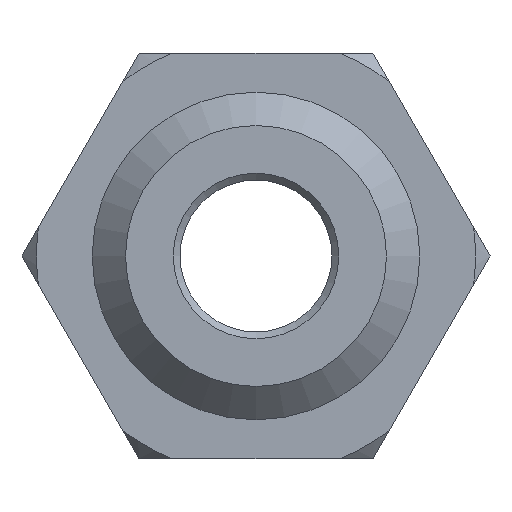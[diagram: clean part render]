
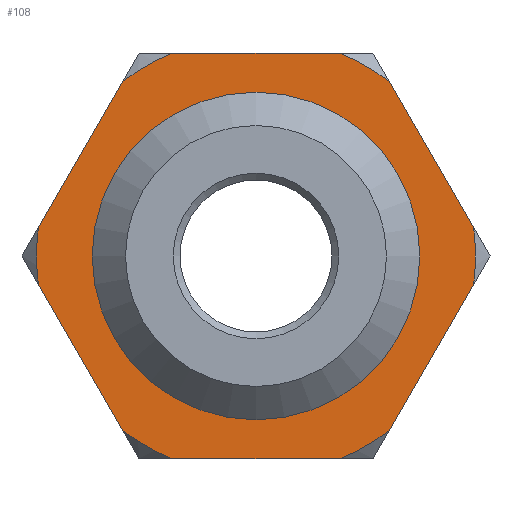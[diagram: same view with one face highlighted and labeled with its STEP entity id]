
A CAD part, left-side view. The second image highlights one B-rep face of the part: STEP entity #108.
In plain terms, the highlighted planar face has unit normal (-1, 0, 0).
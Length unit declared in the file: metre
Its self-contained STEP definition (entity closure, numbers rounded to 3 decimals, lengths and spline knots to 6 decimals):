
#108=ADVANCED_FACE('',(#231,#232),#233,.T.);
#231=FACE_OUTER_BOUND('',#364,.T.);
#232=FACE_BOUND('',#365,.T.);
#233=PLANE('',#366);
#364=EDGE_LOOP('',(#597,#598,#599,#600,#601,#602,#603,#604,#605,#606,#607,#608));
#365=EDGE_LOOP('',(#609));
#366=AXIS2_PLACEMENT_3D('',#610,#611,#612);
#597=ORIENTED_EDGE('',*,*,#782,.F.);
#598=ORIENTED_EDGE('',*,*,#701,.T.);
#599=ORIENTED_EDGE('',*,*,#707,.F.);
#600=ORIENTED_EDGE('',*,*,#712,.T.);
#601=ORIENTED_EDGE('',*,*,#718,.F.);
#602=ORIENTED_EDGE('',*,*,#722,.T.);
#603=ORIENTED_EDGE('',*,*,#750,.F.);
#604=ORIENTED_EDGE('',*,*,#743,.T.);
#605=ORIENTED_EDGE('',*,*,#783,.F.);
#606=ORIENTED_EDGE('',*,*,#733,.T.);
#607=ORIENTED_EDGE('',*,*,#776,.F.);
#608=ORIENTED_EDGE('',*,*,#779,.T.);
#609=ORIENTED_EDGE('',*,*,#766,.F.);
#610=CARTESIAN_POINT('',(-0.0064,0.,0.012));
#611=DIRECTION('',(-1.0,0.,0.0));
#612=DIRECTION('',(0.0,0.0,1.0));
#701=EDGE_CURVE('',#814,#812,#815,.T.);
#707=EDGE_CURVE('',#823,#812,#824,.T.);
#712=EDGE_CURVE('',#823,#830,#832,.T.);
#718=EDGE_CURVE('',#839,#830,#841,.T.);
#722=EDGE_CURVE('',#839,#846,#848,.T.);
#733=EDGE_CURVE('',#866,#864,#867,.T.);
#743=EDGE_CURVE('',#882,#880,#883,.T.);
#750=EDGE_CURVE('',#882,#846,#891,.T.);
#766=EDGE_CURVE('',#915,#915,#916,.T.);
#776=EDGE_CURVE('',#929,#864,#931,.T.);
#779=EDGE_CURVE('',#929,#933,#935,.T.);
#782=EDGE_CURVE('',#814,#933,#938,.T.);
#783=EDGE_CURVE('',#866,#880,#939,.T.);
#812=VERTEX_POINT('',#977);
#814=VERTEX_POINT('',#981);
#815=LINE('',#982,#983);
#823=VERTEX_POINT('',#997);
#824=CIRCLE('',#998,0.0065);
#830=VERTEX_POINT('',#1007);
#832=LINE('',#1011,#1012);
#839=VERTEX_POINT('',#1024);
#841=CIRCLE('',#1028,0.0065);
#846=VERTEX_POINT('',#1034);
#848=LINE('',#1039,#1040);
#864=VERTEX_POINT('',#1068);
#866=VERTEX_POINT('',#1072);
#867=LINE('',#1073,#1074);
#880=VERTEX_POINT('',#1095);
#882=VERTEX_POINT('',#1099);
#883=LINE('',#1100,#1101);
#891=CIRCLE('',#1114,0.0065);
#915=VERTEX_POINT('',#1138);
#916=CIRCLE('',#1139,0.00415);
#929=VERTEX_POINT('',#1152);
#931=CIRCLE('',#1156,0.0065);
#933=VERTEX_POINT('',#1158);
#935=LINE('',#1163,#1164);
#938=CIRCLE('',#1168,0.0065);
#939=CIRCLE('',#1169,0.0065);
#977=CARTESIAN_POINT('',(-0.0064,-0.006446,-0.000835));
#981=CARTESIAN_POINT('',(-0.0064,-0.003946,-0.005165));
#982=CARTESIAN_POINT('',(-0.0064,-0.003464,-0.006));
#983=VECTOR('',#1195,1.0);
#997=CARTESIAN_POINT('',(-0.0064,-0.006446,0.000835));
#998=AXIS2_PLACEMENT_3D('',#1198,#1199,#1200);
#1007=CARTESIAN_POINT('',(-0.0064,-0.003946,0.005165));
#1011=CARTESIAN_POINT('',(-0.0064,-0.006928,0.));
#1012=VECTOR('',#1202,1.0);
#1024=CARTESIAN_POINT('',(-0.0064,-0.0025,0.006));
#1028=AXIS2_PLACEMENT_3D('',#1204,#1205,#1206);
#1034=CARTESIAN_POINT('',(-0.0064,0.0025,0.006));
#1039=CARTESIAN_POINT('',(-0.0064,-0.003464,0.006));
#1040=VECTOR('',#1208,1.0);
#1068=CARTESIAN_POINT('',(-0.0064,0.003946,-0.005165));
#1072=CARTESIAN_POINT('',(-0.0064,0.006446,-0.000835));
#1073=CARTESIAN_POINT('',(-0.0064,0.006928,0.));
#1074=VECTOR('',#1214,1.0);
#1095=CARTESIAN_POINT('',(-0.0064,0.006446,0.000835));
#1099=CARTESIAN_POINT('',(-0.0064,0.003946,0.005165));
#1100=CARTESIAN_POINT('',(-0.0064,0.003464,0.006));
#1101=VECTOR('',#1220,1.0);
#1114=AXIS2_PLACEMENT_3D('',#1225,#1226,#1227);
#1138=CARTESIAN_POINT('',(-0.0064,0.0,0.00415));
#1139=AXIS2_PLACEMENT_3D('',#1252,#1253,#1254);
#1152=CARTESIAN_POINT('',(-0.0064,0.0025,-0.006));
#1156=AXIS2_PLACEMENT_3D('',#1267,#1268,#1269);
#1158=CARTESIAN_POINT('',(-0.0064,-0.0025,-0.006));
#1163=CARTESIAN_POINT('',(-0.0064,0.003464,-0.006));
#1164=VECTOR('',#1270,1.0);
#1168=AXIS2_PLACEMENT_3D('',#1272,#1273,#1274);
#1169=AXIS2_PLACEMENT_3D('',#1275,#1276,#1277);
#1195=DIRECTION('',(0.,-0.5,0.866));
#1198=CARTESIAN_POINT('',(-0.0064,0.,0.0));
#1199=DIRECTION('',(1.0,0.,0.0));
#1200=DIRECTION('',(0.,-1.0,0.0));
#1202=DIRECTION('',(0.,0.5,0.866));
#1204=CARTESIAN_POINT('',(-0.0064,0.,0.0));
#1205=DIRECTION('',(1.0,0.,0.0));
#1206=DIRECTION('',(0.,-1.0,0.0));
#1208=DIRECTION('',(0.,1.0,0.));
#1214=DIRECTION('',(0.,-0.5,-0.866));
#1220=DIRECTION('',(0.,0.5,-0.866));
#1225=CARTESIAN_POINT('',(-0.0064,0.,0.0));
#1226=DIRECTION('',(1.0,0.,0.0));
#1227=DIRECTION('',(0.,-1.0,0.0));
#1252=CARTESIAN_POINT('',(-0.0064,0.0,0.0));
#1253=DIRECTION('',(-1.0,0.0,0.0));
#1254=DIRECTION('',(0.0,0.0,1.0));
#1267=CARTESIAN_POINT('',(-0.0064,0.,0.0));
#1268=DIRECTION('',(1.0,0.,0.0));
#1269=DIRECTION('',(0.,-1.0,0.0));
#1270=DIRECTION('',(0.,-1.0,0.0));
#1272=CARTESIAN_POINT('',(-0.0064,0.,0.0));
#1273=DIRECTION('',(1.0,0.,0.0));
#1274=DIRECTION('',(0.,-1.0,0.0));
#1275=CARTESIAN_POINT('',(-0.0064,0.,0.0));
#1276=DIRECTION('',(1.0,0.,0.0));
#1277=DIRECTION('',(0.,-1.0,0.0));
